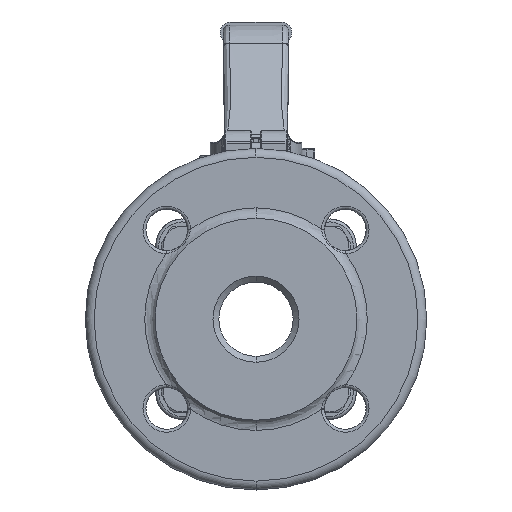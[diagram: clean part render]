
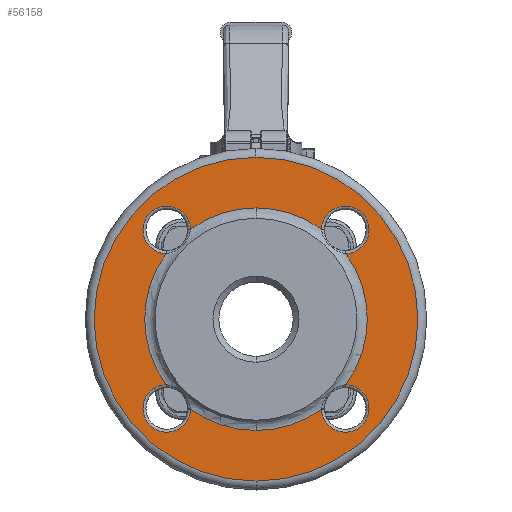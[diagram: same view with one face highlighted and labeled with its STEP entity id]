
A CAD part, left-side view. The second image highlights one B-rep face of the part: STEP entity #56158.
In plain terms, the highlighted planar face has unit normal (-1, 0, 0).
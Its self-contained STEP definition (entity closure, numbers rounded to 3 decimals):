
#57=CARTESIAN_POINT('',(-42.95,0.,0.));
#58=DIRECTION('',(1.,0.,0.));
#59=DIRECTION('',(0.,0.808,-0.589));
#60=AXIS2_PLACEMENT_3D('',#57,#58,#59);
#62=CARTESIAN_POINT('',(-42.95,0.,0.));
#63=DIRECTION('',(1.,0.,0.));
#64=DIRECTION('',(0.,0.,-1.));
#65=AXIS2_PLACEMENT_3D('',#62,#63,#64);
#67=CARTESIAN_POINT('',(-42.95,0.,0.));
#68=DIRECTION('',(-1.,0.,0.));
#69=DIRECTION('',(0.,0.,-1.));
#70=AXIS2_PLACEMENT_3D('',#67,#68,#69);
#72=CARTESIAN_POINT('',(-42.95,0.,0.));
#73=DIRECTION('',(-1.,0.,0.));
#74=DIRECTION('',(0.,-0.808,-0.589));
#75=AXIS2_PLACEMENT_3D('',#72,#73,#74);
#77=CARTESIAN_POINT('',(-42.95,0.,0.));
#78=DIRECTION('',(-1.,0.,0.));
#79=DIRECTION('',(0.,-0.589,0.808));
#80=AXIS2_PLACEMENT_3D('',#77,#78,#79);
#82=CARTESIAN_POINT('',(-42.95,0.,0.));
#83=DIRECTION('',(1.,0.,0.));
#84=DIRECTION('',(0.,0.589,0.808));
#85=AXIS2_PLACEMENT_3D('',#82,#83,#84);
#92=CARTESIAN_POINT('',(-42.95,0.,0.));
#93=DIRECTION('',(1.,0.,0.));
#94=DIRECTION('',(0.,0.,-1.));
#95=AXIS2_PLACEMENT_3D('',#92,#93,#94);
#115=CARTESIAN_POINT('',(-42.95,0.,0.));
#116=DIRECTION('',(1.,0.,0.));
#117=DIRECTION('',(0.,0.,1.));
#118=AXIS2_PLACEMENT_3D('',#115,#116,#117);
#45726=CARTESIAN_POINT('',(-42.95,30.052,30.052));
#45727=DIRECTION('',(1.,0.,0.));
#45728=DIRECTION('',(0.,0.029,-1.));
#45729=AXIS2_PLACEMENT_3D('',#45726,#45727,#45728);
#45746=CARTESIAN_POINT('',(-42.95,22.055,
30.284));
#45799=CARTESIAN_POINT('',(-42.95,30.284,
22.055));
#45881=CARTESIAN_POINT('',(-42.95,-30.052,30.052));
#45882=DIRECTION('',(1.,0.,0.));
#45883=DIRECTION('',(0.,1.,0.029));
#45884=AXIS2_PLACEMENT_3D('',#45881,#45882,#45883);
#45901=CARTESIAN_POINT('',(-42.95,-30.284,
22.055));
#45984=CARTESIAN_POINT('',(-42.95,-22.055,
30.284));
#46070=CARTESIAN_POINT('',(-42.95,-30.284,
-22.055));
#46129=CARTESIAN_POINT('',(-42.95,-30.052,-30.052));
#46130=DIRECTION('',(1.,0.,0.));
#46131=DIRECTION('',(0.,-0.029,1.));
#46132=AXIS2_PLACEMENT_3D('',#46129,#46130,#46131);
#46138=CARTESIAN_POINT('',(-42.95,-22.055,
-30.284));
#46196=CARTESIAN_POINT('',(-42.95,22.055,
-30.284));
#46210=CARTESIAN_POINT('',(-42.95,30.052,-30.052));
#46211=DIRECTION('',(1.,0.,0.));
#46212=DIRECTION('',(0.,-1.,-0.029));
#46213=AXIS2_PLACEMENT_3D('',#46210,#46211,#46212);
#46230=CARTESIAN_POINT('',(-42.95,30.284,
-22.055));
#46328=CARTESIAN_POINT('',(-42.95,0.,-54.5));
#46329=CARTESIAN_POINT('',(-42.95,0.,54.5));
#46330=VERTEX_POINT('',#46328);
#46331=VERTEX_POINT('',#46329);
#47896=VERTEX_POINT('',#45746);
#47899=VERTEX_POINT('',#45799);
#47913=VERTEX_POINT('',#45901);
#47916=VERTEX_POINT('',#45984);
#47926=VERTEX_POINT('',#46138);
#47930=VERTEX_POINT('',#46070);
#47946=VERTEX_POINT('',#46230);
#47949=VERTEX_POINT('',#46196);
#47959=CARTESIAN_POINT('',(-42.95,0.,37.464));
#47960=VERTEX_POINT('',#47959);
#47961=CARTESIAN_POINT('',(-42.95,0.,-37.464));
#47962=VERTEX_POINT('',#47961);
#56131=CARTESIAN_POINT('',(-42.95,0.,0.));
#56132=DIRECTION('',(-1.,0.,0.));
#56133=DIRECTION('',(0.,0.,1.));
#56134=AXIS2_PLACEMENT_3D('',#56131,#56132,#56133);
#56135=PLANE('',#56134);
#56137=ORIENTED_EDGE('',*,*,#56136,.T.);
#56139=ORIENTED_EDGE('',*,*,#56138,.T.);
#56140=EDGE_LOOP('',(#56137,#56139));
#56141=FACE_OUTER_BOUND('',#56140,.F.);
#56143=ORIENTED_EDGE('',*,*,#56142,.F.);
#56144=ORIENTED_EDGE('',*,*,#56119,.F.);
#56146=ORIENTED_EDGE('',*,*,#56145,.F.);
#56147=ORIENTED_EDGE('',*,*,#56113,.F.);
#56148=ORIENTED_EDGE('',*,*,#56099,.T.);
#56150=ORIENTED_EDGE('',*,*,#56149,.F.);
#56151=ORIENTED_EDGE('',*,*,#56093,.T.);
#56153=ORIENTED_EDGE('',*,*,#56152,.F.);
#56154=ORIENTED_EDGE('',*,*,#56087,.T.);
#56155=ORIENTED_EDGE('',*,*,#56125,.F.);
#56156=EDGE_LOOP('',(#56143,#56144,#56146,#56147,#56148,#56150,#56151,#56153,
#56154,#56155));
#56157=FACE_BOUND('',#56156,.F.);
#56158=ADVANCED_FACE('',(#56141,#56157),#56135,.T.);
#61=CIRCLE('',#60,37.464);
#66=CIRCLE('',#65,37.464);
#71=CIRCLE('',#70,37.464);
#76=CIRCLE('',#75,37.464);
#81=CIRCLE('',#80,37.464);
#86=CIRCLE('',#85,37.464);
#96=CIRCLE('',#95,54.5);
#119=CIRCLE('',#118,54.5);
#45730=CIRCLE('',#45729,8.);
#45885=CIRCLE('',#45884,8.);
#46133=CIRCLE('',#46132,8.);
#46214=CIRCLE('',#46213,8.);
#56087=EDGE_CURVE('',#47916,#47960,#81,.T.);
#56093=EDGE_CURVE('',#47930,#47913,#76,.T.);
#56099=EDGE_CURVE('',#47962,#47926,#71,.T.);
#56113=EDGE_CURVE('',#47962,#47949,#66,.T.);
#56119=EDGE_CURVE('',#47946,#47899,#61,.T.);
#56125=EDGE_CURVE('',#47896,#47960,#86,.T.);
#56136=EDGE_CURVE('',#46330,#46331,#96,.T.);
#56138=EDGE_CURVE('',#46331,#46330,#119,.T.);
#56142=EDGE_CURVE('',#47899,#47896,#45730,.T.);
#56145=EDGE_CURVE('',#47949,#47946,#46214,.T.);
#56149=EDGE_CURVE('',#47930,#47926,#46133,.T.);
#56152=EDGE_CURVE('',#47916,#47913,#45885,.T.);
